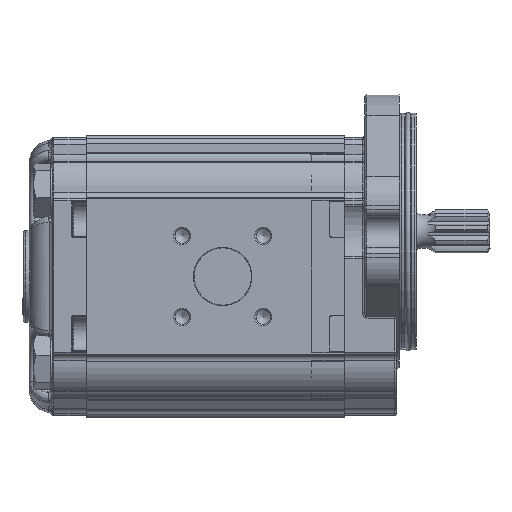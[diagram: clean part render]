
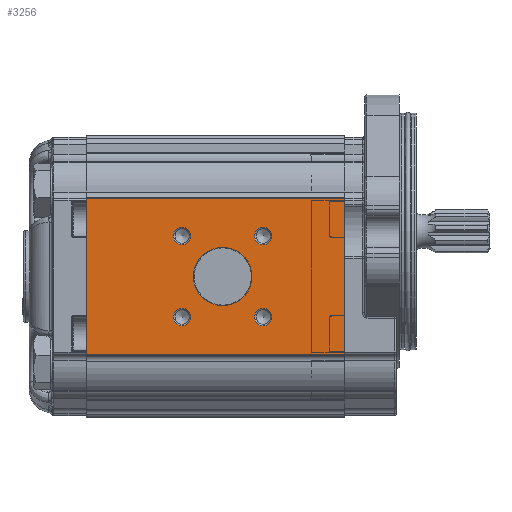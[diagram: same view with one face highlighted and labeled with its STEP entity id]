
A CAD part, left-side view. The second image highlights one B-rep face of the part: STEP entity #3256.
In plain terms, the highlighted planar face has unit normal (-1, 0, 0).
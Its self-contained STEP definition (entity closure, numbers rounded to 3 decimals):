
#3256 = ADVANCED_FACE( '', ( #7947, #7948, #7949, #7950, #7951, #7952 ), #7953, .T. );
#7947 = FACE_BOUND( '', #15256, .T. );
#7948 = FACE_BOUND( '', #15257, .T. );
#7949 = FACE_BOUND( '', #15258, .T. );
#7950 = FACE_BOUND( '', #15259, .T. );
#7951 = FACE_BOUND( '', #15260, .T. );
#7952 = FACE_OUTER_BOUND( '', #15261, .T. );
#7953 = PLANE( '', #15262 );
#15256 = EDGE_LOOP( '', ( #28449 ) );
#15257 = EDGE_LOOP( '', ( #28450 ) );
#15258 = EDGE_LOOP( '', ( #28451 ) );
#15259 = EDGE_LOOP( '', ( #28452 ) );
#15260 = EDGE_LOOP( '', ( #28453 ) );
#15261 = EDGE_LOOP( '', ( #28454, #28455, #28456, #28457 ) );
#15262 = AXIS2_PLACEMENT_3D( '', #28458, #28459, #28460 );
#28449 = ORIENTED_EDGE( '', *, *, #44155, .T. );
#28450 = ORIENTED_EDGE( '', *, *, #44156, .T. );
#28451 = ORIENTED_EDGE( '', *, *, #44157, .T. );
#28452 = ORIENTED_EDGE( '', *, *, #44038, .T. );
#28453 = ORIENTED_EDGE( '', *, *, #44158, .T. );
#28454 = ORIENTED_EDGE( '', *, *, #44159, .F. );
#28455 = ORIENTED_EDGE( '', *, *, #44160, .F. );
#28456 = ORIENTED_EDGE( '', *, *, #44161, .T. );
#28457 = ORIENTED_EDGE( '', *, *, #44162, .T. );
#28458 = CARTESIAN_POINT( '', ( -43., 90., 27.048 ) );
#28459 = DIRECTION( '', ( -1., 0., 0. ) );
#28460 = DIRECTION( '', ( 0., 0., 1. ) );
#44038 = EDGE_CURVE( '', #53190, #53190, #53191, .F. );
#44155 = EDGE_CURVE( '', #53361, #53361, #53362, .F. );
#44156 = EDGE_CURVE( '', #53363, #53363, #53364, .F. );
#44157 = EDGE_CURVE( '', #53365, #53365, #53366, .F. );
#44158 = EDGE_CURVE( '', #53367, #53367, #53368, .F. );
#44159 = EDGE_CURVE( '', #53369, #53370, #53371, .T. );
#44160 = EDGE_CURVE( '', #53372, #53369, #53373, .T. );
#44161 = EDGE_CURVE( '', #53372, #53374, #53375, .T. );
#44162 = EDGE_CURVE( '', #53374, #53370, #53376, .T. );
#53190 = VERTEX_POINT( '', #69064 );
#53191 = CIRCLE( '', #69065, 3. );
#53361 = VERTEX_POINT( '', #69397 );
#53362 = CIRCLE( '', #69398, 10.2 );
#53363 = VERTEX_POINT( '', #69399 );
#53364 = CIRCLE( '', #69400, 3. );
#53365 = VERTEX_POINT( '', #69401 );
#53366 = CIRCLE( '', #69402, 3. );
#53367 = VERTEX_POINT( '', #69403 );
#53368 = CIRCLE( '', #69404, 3. );
#53369 = VERTEX_POINT( '', #69405 );
#53370 = VERTEX_POINT( '', #69406 );
#53371 = LINE( '', #69407, #69408 );
#53372 = VERTEX_POINT( '', #69409 );
#53373 = LINE( '', #69410, #69411 );
#53374 = VERTEX_POINT( '', #69412 );
#53375 = LINE( '', #69413, #69414 );
#53376 = LINE( '', #69415, #69416 );
#69064 = CARTESIAN_POINT( '', ( -43., 28.358, 17.142 ) );
#69065 = AXIS2_PLACEMENT_3D( '', #82627, #82628, #82629 );
#69397 = CARTESIAN_POINT( '', ( -43., 42.5, 10.2 ) );
#69398 = AXIS2_PLACEMENT_3D( '', #82744, #82745, #82746 );
#69399 = CARTESIAN_POINT( '', ( -43., 56.642, -11.142 ) );
#69400 = AXIS2_PLACEMENT_3D( '', #82747, #82748, #82749 );
#69401 = CARTESIAN_POINT( '', ( -43., 56.642, 17.142 ) );
#69402 = AXIS2_PLACEMENT_3D( '', #82750, #82751, #82752 );
#69403 = CARTESIAN_POINT( '', ( -43., 28.358, -11.142 ) );
#69404 = AXIS2_PLACEMENT_3D( '', #82753, #82754, #82755 );
#69405 = CARTESIAN_POINT( '', ( -43., 0., 27.048 ) );
#69406 = CARTESIAN_POINT( '', ( -43., 0., -27.048 ) );
#69407 = CARTESIAN_POINT( '', ( -43., 0., 27.048 ) );
#69408 = VECTOR( '', #82756, 1000. );
#69409 = CARTESIAN_POINT( '', ( -43., 90., 27.048 ) );
#69410 = CARTESIAN_POINT( '', ( -43., 90., 27.048 ) );
#69411 = VECTOR( '', #82757, 1000. );
#69412 = CARTESIAN_POINT( '', ( -43., 90., -27.048 ) );
#69413 = CARTESIAN_POINT( '', ( -43., 90., 27.048 ) );
#69414 = VECTOR( '', #82758, 1000. );
#69415 = CARTESIAN_POINT( '', ( -43., 90., -27.048 ) );
#69416 = VECTOR( '', #82759, 1000. );
#82627 = CARTESIAN_POINT( '', ( -43., 28.358, 14.142 ) );
#82628 = DIRECTION( '', ( -1., 0., 0. ) );
#82629 = DIRECTION( '', ( 0., 0., 1. ) );
#82744 = CARTESIAN_POINT( '', ( -43., 42.5, 0. ) );
#82745 = DIRECTION( '', ( -1., 0., 0. ) );
#82746 = DIRECTION( '', ( 0., 0., 1. ) );
#82747 = CARTESIAN_POINT( '', ( -43., 56.642, -14.142 ) );
#82748 = DIRECTION( '', ( -1., 0., 0. ) );
#82749 = DIRECTION( '', ( 0., 0., 1. ) );
#82750 = CARTESIAN_POINT( '', ( -43., 56.642, 14.142 ) );
#82751 = DIRECTION( '', ( -1., 0., 0. ) );
#82752 = DIRECTION( '', ( 0., 0., 1. ) );
#82753 = CARTESIAN_POINT( '', ( -43., 28.358, -14.142 ) );
#82754 = DIRECTION( '', ( -1., 0., 0. ) );
#82755 = DIRECTION( '', ( 0., 0., 1. ) );
#82756 = DIRECTION( '', ( 0., 0., -1. ) );
#82757 = DIRECTION( '', ( 0., -1., 0. ) );
#82758 = DIRECTION( '', ( 0., 0., -1. ) );
#82759 = DIRECTION( '', ( 0., -1., 0. ) );
